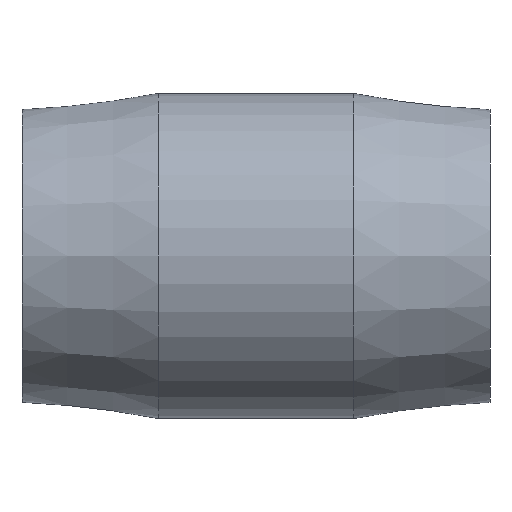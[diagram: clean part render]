
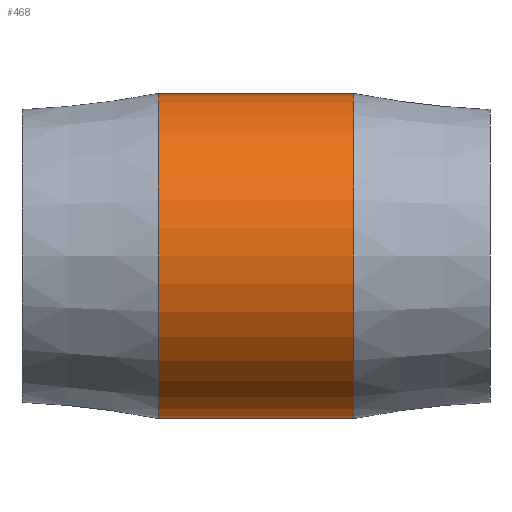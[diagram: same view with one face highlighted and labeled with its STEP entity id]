
A CAD part, front view. The second image highlights one B-rep face of the part: STEP entity #468.
In plain terms, the highlighted cylindrical face has radius 41.656 mm (diameter 83.312 mm), a full revolution.
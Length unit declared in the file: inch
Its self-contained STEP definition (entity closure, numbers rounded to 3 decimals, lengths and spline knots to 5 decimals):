
#44=LINE('',#869,#61);
#61=VECTOR('',#639,1.64);
#76=CYLINDRICAL_SURFACE('',#528,1.64);
#94=FACE_OUTER_BOUND('',#127,.T.);
#127=EDGE_LOOP('',(#350,#351,#352,#353,#354,#355));
#163=CIRCLE('',#529,1.64);
#164=CIRCLE('',#530,1.64);
#165=CIRCLE('',#531,1.64);
#166=CIRCLE('',#532,1.64);
#212=VERTEX_POINT('',#864);
#213=VERTEX_POINT('',#865);
#214=VERTEX_POINT('',#868);
#215=VERTEX_POINT('',#870);
#267=EDGE_CURVE('',#212,#213,#163,.T.);
#268=EDGE_CURVE('',#213,#212,#164,.T.);
#269=EDGE_CURVE('',#213,#214,#44,.T.);
#270=EDGE_CURVE('',#214,#215,#165,.T.);
#271=EDGE_CURVE('',#215,#214,#166,.T.);
#350=ORIENTED_EDGE('',*,*,#267,.F.);
#351=ORIENTED_EDGE('',*,*,#268,.F.);
#352=ORIENTED_EDGE('',*,*,#269,.T.);
#353=ORIENTED_EDGE('',*,*,#270,.T.);
#354=ORIENTED_EDGE('',*,*,#271,.T.);
#355=ORIENTED_EDGE('',*,*,#269,.F.);
#468=ADVANCED_FACE('',(#94),#76,.T.);
#528=AXIS2_PLACEMENT_3D('',#863,#633,#634);
#529=AXIS2_PLACEMENT_3D('',#866,#635,#636);
#530=AXIS2_PLACEMENT_3D('',#867,#637,#638);
#531=AXIS2_PLACEMENT_3D('',#871,#640,#641);
#532=AXIS2_PLACEMENT_3D('',#872,#642,#643);
#633=DIRECTION('center_axis',(1.,0.,0.));
#634=DIRECTION('ref_axis',(0.,1.,0.));
#635=DIRECTION('center_axis',(1.,0.,0.));
#636=DIRECTION('ref_axis',(0.,0.,-1.));
#637=DIRECTION('center_axis',(1.,0.,0.));
#638=DIRECTION('ref_axis',(0.,0.,-1.));
#639=DIRECTION('',(-1.,0.,0.));
#640=DIRECTION('center_axis',(1.,0.,0.));
#641=DIRECTION('ref_axis',(0.,0.,-1.));
#642=DIRECTION('center_axis',(1.,0.,0.));
#643=DIRECTION('ref_axis',(0.,0.,-1.));
#863=CARTESIAN_POINT('Origin',(0.48663,0.,0.));
#864=CARTESIAN_POINT('',(0.986,1.64,0.));
#865=CARTESIAN_POINT('',(0.986,-1.64,0.));
#866=CARTESIAN_POINT('Origin',(0.986,0.,0.));
#867=CARTESIAN_POINT('Origin',(0.986,0.,0.));
#868=CARTESIAN_POINT('',(-0.986,-1.64,0.));
#869=CARTESIAN_POINT('',(0.48663,-1.64,0.));
#870=CARTESIAN_POINT('',(-0.986,1.64,0.));
#871=CARTESIAN_POINT('Origin',(-0.986,0.,0.));
#872=CARTESIAN_POINT('Origin',(-0.986,0.,0.));
